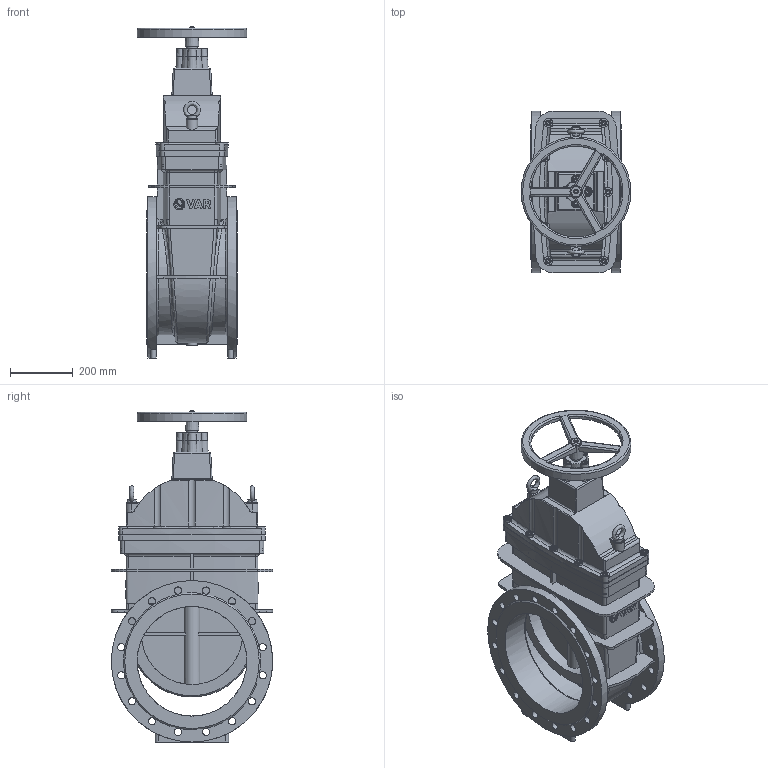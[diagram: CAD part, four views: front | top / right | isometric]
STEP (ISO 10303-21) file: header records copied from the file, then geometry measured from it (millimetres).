
FILE_DESCRIPTION(('STEP AP242'), '1');
FILE_NAME('青溻桄赅', '', ('UNSPECIFIED'), ('UNSPECIFIED'), 'C3D Converter', 'C3D Toolkit', '');
FILE_SCHEMA(('AP242_MANAGED_MODEL_BASED_3D_ENGINEERING_MIM_LF { 1 0 10303 442 1 1 4 }'));
Length unit declared in the file: millimetre
Assembly tree (25 placements, depth 2):
  (unnamed)
    (unnamed)
    (unnamed)
    (unnamed)
    (unnamed)
    (unnamed)  x2
    (unnamed)
    (unnamed)
    (unnamed)  x10
    (unnamed)  x4
    (unnamed)
    (unnamed)  x2
Bounding box: 350 x 515 x 1059.1 mm (x, y, z)
Volume: 11705669.3 mm3; surface area: 3891159.9 mm2
Topology: 27 solids, 28 shells, 1364 faces, 3471 edges, 2189 vertices
Faces by surface type: plane 625, cylinder 314, extrusion 157, cone 120, bspline 101, torus 47
Full cylindrical faces by diameter (mm): 6 x3, 10 x14, 12 x56, 18 x28, 23 x32, 35 x8, 35.64 x1, 52.667 x5, 290 x1, 300 x1, 323.5 x2, 340 x1, 350 x5, 381.8 x4, 403 x1, 515 x2
Entity records: 66764 total; most frequent: CARTESIAN_POINT 38490, ORIENTED_EDGE 5292, DIRECTION 4422, EDGE_CURVE 2646, VERTEX_POINT 1794, AXIS2_PLACEMENT_3D 1591, EDGE_LOOP 1443, VECTOR 1240
